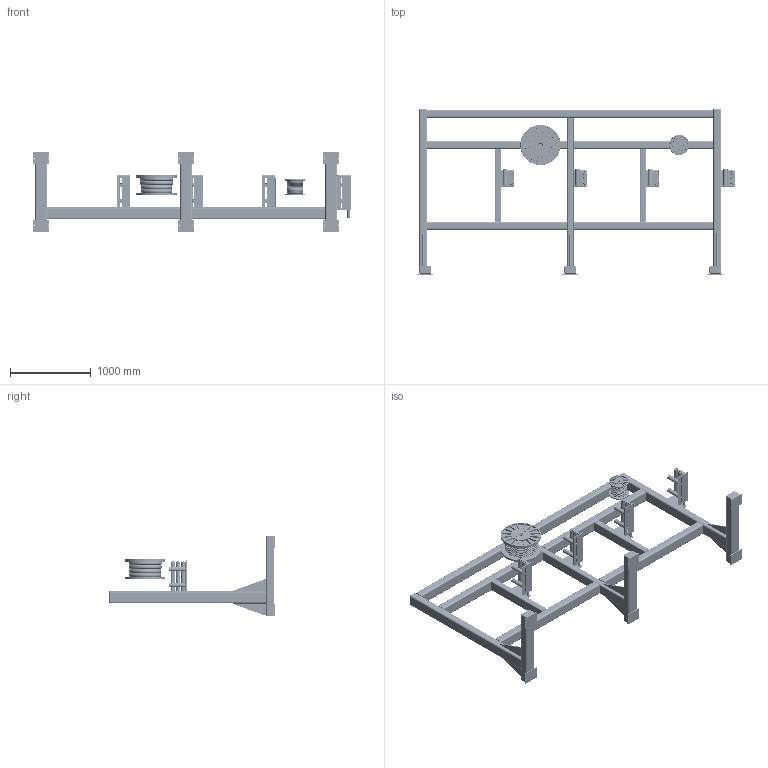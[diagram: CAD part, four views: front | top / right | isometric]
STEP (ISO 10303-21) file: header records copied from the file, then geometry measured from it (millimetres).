
FILE_DESCRIPTION (( 'STEP AP214' ), '1' );
FILE_NAME ('Baugruppe Drahtablaufgestell_20260617.STEP', '2026-06-17T07:54:45', ( '' ), ( '' ), 'SwSTEP 2.0', 'SolidWorks 2022', '' );
FILE_SCHEMA (( 'AUTOMOTIVE_DESIGN' ));
Length unit declared in the file: millimetre
Products named in the file (18): Abstandshalter_20260617_9mm; Baugruppe Umlenkrollen_20260617_ ; Baugruppe Drahtablaufgestell_20260617; Lieferspule K500-1_20260617_ ; Halteplatte Umlenkrolle unten_20260617_ ; Umlenkrolle_20260617_ ; Umlenkrolle klein _20260617_klein; Halteplatte Umlenkrolle_20260617_ ; Lieferspule K250-1_20260617_ ; Abstandshalter_20260617_80mm; Inbusschraube M5x16 ISO 4762 10.9 vz._Inbusschraube M5x16 ISO 4762 10.9 vz.; Umlenkrollenachse klein_20260617_495mm; Rollenstabilisierung_20260617_ ; DIN 625 - 6004 - 12,DE,NC,12_68_DIN 625 - 6004 - 12,DE,NC,12_68; Umlenkrollenachse_20260617_495mm; Drahtablaufgestell_20260617_ <Wie bearbeitet>; Haltescheibe_20260617_klein
Assembly tree (51 placements, depth 3):
  Baugruppe Drahtablaufgestell_20260617
    Drahtablaufgestell_20260617_ <Wie bearbeitet>
    Lieferspule K250-1_20260617_ 
    Lieferspule K500-1_20260617_ 
    Baugruppe Umlenkrollen_20260617_   x4
      Halteplatte Umlenkrolle_20260617_ 
      Abstandshalter_20260617_80mm
      Halteplatte Umlenkrolle_20260617_ 
      Haltescheibe_20260617_klein
      Umlenkrollenachse_20260617_495mm
      Umlenkrolle_20260617_ 
      Abstandshalter_20260617_9mm
      DIN 625 - 6004 - 12,DE,NC,12_68_DIN 625 - 6004 - 12,DE,NC,12_68
      Inbusschraube M5x16 ISO 4762 10.9 vz._Inbusschraube M5x16 ISO 4762 10.9 vz.
      Rollenstabilisierung_20260617_ 
      Umlenkrolle klein _20260617_klein
      Halteplatte Umlenkrolle unten_20260617_ 
      Umlenkrollenachse klein_20260617_495mm
Bounding box: 3941.95 x 2055 x 1000 mm (x, y, z)
Volume: 137131042.8 mm3; surface area: 26342382.5 mm2
Topology: 294 solids, 294 shells, 7872 faces, 23262 edges, 14432 vertices
Faces by surface type: cylinder 2156, torus 2028, plane 1744, sphere 1288, cone 656
Entity records: 85451 total; most frequent: DIRECTION 15438, CARTESIAN_POINT 14105, ORIENTED_EDGE 12660, AXIS2_PLACEMENT_3D 6513, EDGE_CURVE 6330, VERTEX_POINT 3764, CIRCLE 3720, EDGE_LOOP 2942
